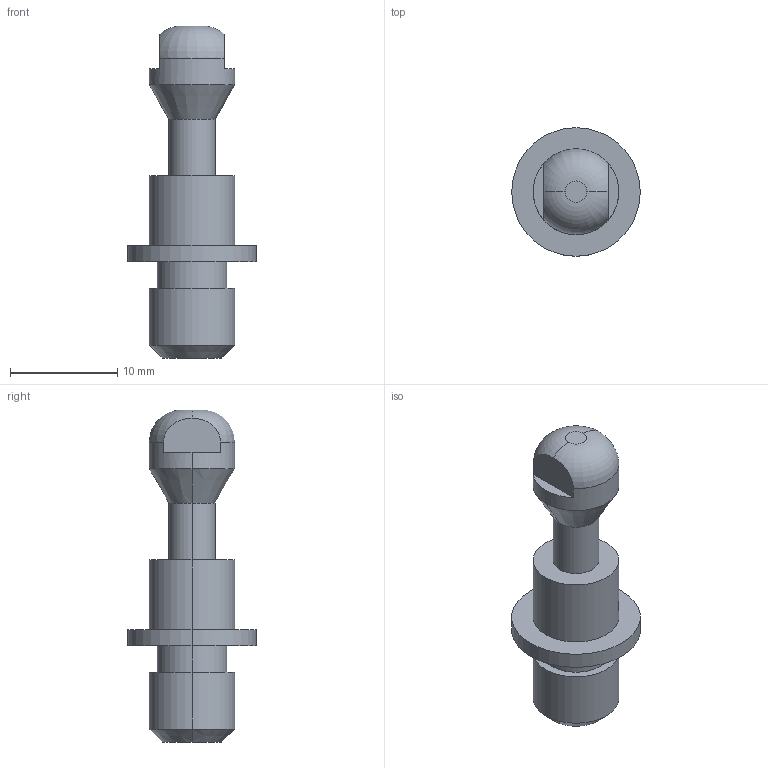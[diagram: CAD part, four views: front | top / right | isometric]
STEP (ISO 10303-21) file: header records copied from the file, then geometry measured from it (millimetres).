
FILE_DESCRIPTION (( 'STEP AP203' ), '1' );
FILE_NAME ('qlpd200-m8.STEP', '2021-10-21T08:20:11', ( '' ), ( '' ), 'SwSTEP 2.0', 'SolidWorks 2020', '' );
FILE_SCHEMA (( 'CONFIG_CONTROL_DESIGN' ));
Length unit declared in the file: millimetre
Products named in the file (1): qlpd200-m8
Bounding box: 12 x 12 x 31 mm (x, y, z)
Volume: 1283.5 mm3; surface area: 958.8 mm2
Topology: 1 solids, 1 shells, 28 faces, 60 edges, 38 vertices
Faces by surface type: cylinder 12, plane 10, cone 4, torus 2
Entity records: 891 total; most frequent: CARTESIAN_POINT 179, DIRECTION 148, ORIENTED_EDGE 120, AXIS2_PLACEMENT_3D 63, EDGE_CURVE 60, VERTEX_POINT 38, CIRCLE 34, EDGE_LOOP 32
